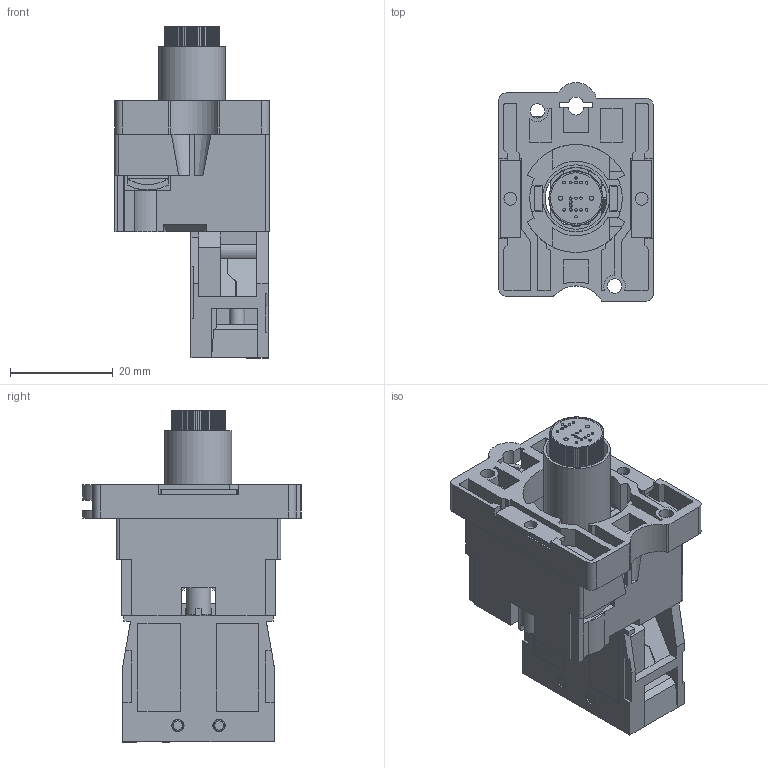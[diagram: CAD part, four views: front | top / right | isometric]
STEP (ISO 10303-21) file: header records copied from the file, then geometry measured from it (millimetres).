
FILE_DESCRIPTION (( 'STEP AP214' ), '1' );
FILE_NAME ('3D 斁麧錪 MTB2-EW635.STEP', '2017-11-01T08:00:37', ( '' ), ( '' ), 'SwSTEP 2.0', 'SolidWorks 2014', '' );
FILE_SCHEMA (( 'AUTOMOTIVE_DESIGN' ));
Length unit declared in the file: millimetre
Products named in the file (7): 3D 斁麧錪 MTB2-EW635; ﾇ琥韲 蓁 ﾁ-ﾊ; Ìîäóëü ïîäñâåòêè ñ äåðæàòåëåì_00; MTB2-BE áëîê-êîíòàêò; BA9S; Ìîäóëü ïîäñâåòêè; Îñíîâàíèå êíîïêè_ïëàñòèêîâàÿ ñåðèÿ
Assembly tree (7 placements, depth 3):
  3D 斁麧錪 MTB2-EW635
    Ìîäóëü ïîäñâåòêè ñ äåðæàòåëåì_00
      Îñíîâàíèå êíîïêè_ïëàñòèêîâàÿ ñåðèÿ
      ﾇ琥韲 蓁 ﾁ-ﾊ  x2
      Ìîäóëü ïîäñâåòêè
      BA9S
    MTB2-BE áëîê-êîíòàêò
Bounding box: 30 x 42.5 x 64.5 mm (x, y, z)
Volume: 25129.4 mm3; surface area: 22597.3 mm2
Topology: 9 solids, 9 shells, 1246 faces, 3405 edges, 2249 vertices
Faces by surface type: plane 898, cylinder 302, torus 25, cone 14, bspline 6, sphere 1
Full cylindrical faces by diameter (mm): 0.47 x1, 0.5 x16, 0.8 x2, 1.5 x1, 1.6 x2, 1.8 x2, 2 x4, 2.2 x2, 2.389 x1, 2.4 x2, 2.5 x2, 2.7 x1, 2.8 x2, 3 x8, 3.2 x12, 3.5 x4, 3.6 x2, 3.8 x4, 4.8 x1, 5 x2, 5.5 x4, 9.5 x1, 9.9 x1, 12 x1, 13 x1
Entity records: 40070 total; most frequent: CARTESIAN_POINT 7401, ORIENTED_EDGE 6424, DIRECTION 6252, EDGE_CURVE 3212, VECTOR 2414, LINE 2414, VERTEX_POINT 2172, AXIS2_PLACEMENT_3D 1919
